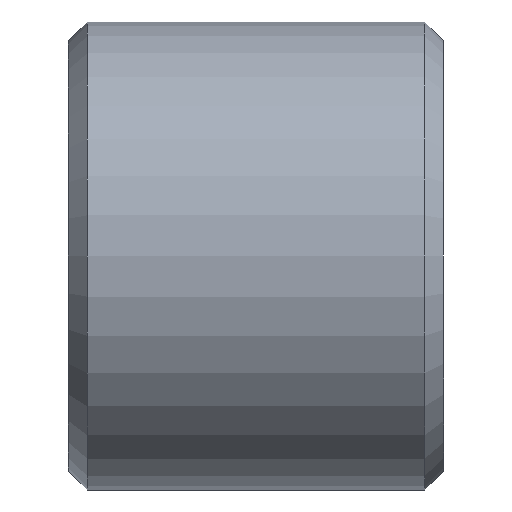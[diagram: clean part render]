
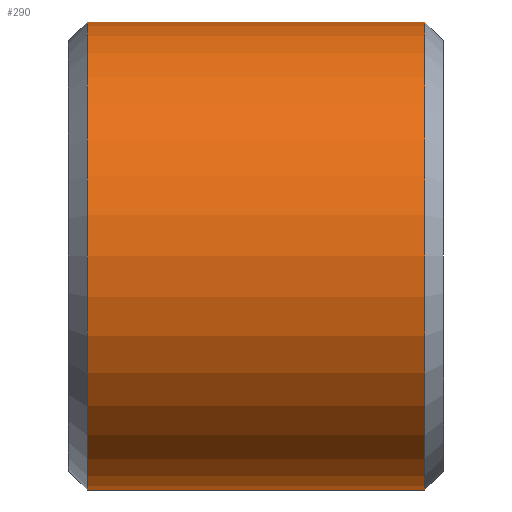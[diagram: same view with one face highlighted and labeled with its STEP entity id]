
A CAD part, front view. The second image highlights one B-rep face of the part: STEP entity #290.
In plain terms, the highlighted cylindrical face has radius 1.981 mm (diameter 3.962 mm), a partial arc.
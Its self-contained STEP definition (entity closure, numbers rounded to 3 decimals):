
#182=CARTESIAN_POINT('POINT13',(-3.017,0.,
   -1.981));
#183=VERTEX_POINT('VERTEX13',#182);
#191=CARTESIAN_POINT('POINT14',(-3.017,0.,
   1.981));
#192=VERTEX_POINT('VERTEX14',#191);
#199=CARTESIAN_POINT('POS20',(-3.017,0.,
   0.));
#200=DIRECTION('DIR31',(1.,0.,0.));
#201=DIRECTION('DIR32',(0.,0.,-1.));
#202=AXIS2_PLACEMENT_3D('AXIS12',#199,#200,#201);
#203=CIRCLE('ELLIPSE7',#202,1.981);
#214=CARTESIAN_POINT('POINT15',(-0.158,0.,
   1.981));
#215=VERTEX_POINT('VERTEX15',#214);
#223=CARTESIAN_POINT('POINT16',(-0.158,0.,
   -1.981));
#224=VERTEX_POINT('VERTEX16',#223);
#231=CARTESIAN_POINT('POS24',(-0.158,0.,
   0.));
#232=DIRECTION('DIR37',(-1.,0.,0.));
#233=DIRECTION('DIR38',(0.,0.,1.));
#234=AXIS2_PLACEMENT_3D('AXIS14',#231,#232,#233);
#235=CIRCLE('ELLIPSE8',#234,1.981);
#247=EDGE_CURVE('EDGE25',#224,#215,#235,.T.);
#255=EDGE_CURVE('EDGE26',#192,#183,#203,.T.);
#262=CARTESIAN_POINT('POS26',(-1.588,0.,
   1.981));
#263=DIRECTION('DIR41',(1.,0.,0.));
#264=VECTOR('VEC11',#263,1.);
#265=LINE('STRAIGHT11',#262,#264);
#266=EDGE_CURVE('EDGE27',#192,#215,#265,.T.);
#269=CARTESIAN_POINT('POS27',(-1.588,0.,
   -1.981));
#270=DIRECTION('DIR42',(-1.,0.,0.));
#271=VECTOR('VEC12',#270,1.);
#272=LINE('STRAIGHT12',#269,#271);
#273=EDGE_CURVE('EDGE28',#224,#183,#272,.T.);
#278=CARTESIAN_POINT('POS28',(-1.588,0.,
   0.));
#279=DIRECTION('DIR43',(1.,0.,0.));
#280=DIRECTION('DIR44',(0.,0.,
   1.));
#281=AXIS2_PLACEMENT_3D('AXIS16',#278,#279,#280);
#282=CYLINDRICAL_SURFACE('CONE_SURF6',#281,1.981);
#284=ORIENTED_EDGE('COEDGE53',*,*,#266,.F.);
#285=ORIENTED_EDGE('COEDGE54',*,*,#255,.T.);
#286=ORIENTED_EDGE('COEDGE55',*,*,#273,.F.);
#287=ORIENTED_EDGE('COEDGE56',*,*,#247,.T.);
#288=EDGE_LOOP('NONE',(#284,#285,#286,#287));
#289=FACE_BOUND('LOOP1',#288,.T.);
#290=ADVANCED_FACE('FACE14',(#289),#282,.T.);
